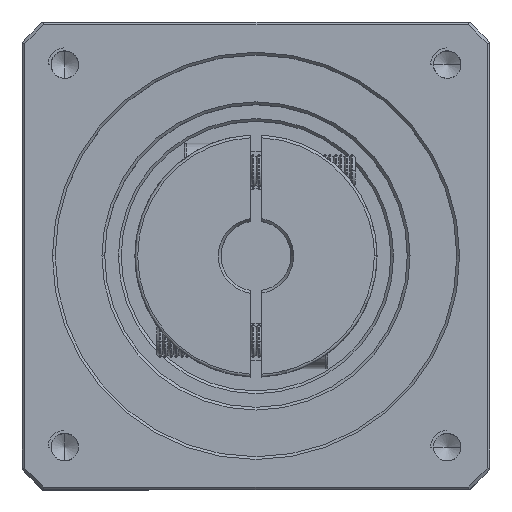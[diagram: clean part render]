
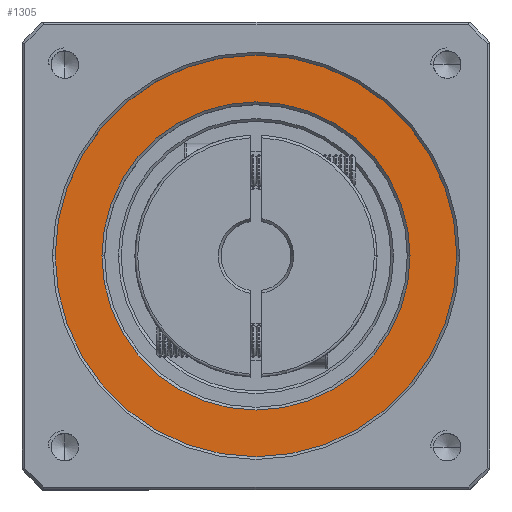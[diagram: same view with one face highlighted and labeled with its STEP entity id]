
A CAD part, top view. The second image highlights one B-rep face of the part: STEP entity #1305.
In plain terms, the highlighted planar face has unit normal (0, 0, 1).
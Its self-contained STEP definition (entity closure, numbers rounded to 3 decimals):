
#1305 = ADVANCED_FACE ( 'NONE', ( #100700, #77676 ), #41899, .T. ) ;
#5533 = DIRECTION ( 'NONE',  ( 0., 0., -1. ) ) ;
#11532 = AXIS2_PLACEMENT_3D ( 'NONE', #64466, #5533, #74383 ) ;
#14379 = EDGE_CURVE ( 'NONE', #72484, #76247, #106907, .T. ) ;
#14905 = AXIS2_PLACEMENT_3D ( 'NONE', #41452, #110237, #51374 ) ;
#15814 = EDGE_LOOP ( 'NONE', ( #63364, #85802 ) ) ;
#17843 = EDGE_LOOP ( 'NONE', ( #114533, #67740 ) ) ;
#19266 = EDGE_CURVE ( 'NONE', #76247, #72484, #41678, .T. ) ;
#20450 = CARTESIAN_POINT ( 'NONE',  ( 42.992, 11.253, 99.75 ) ) ;
#22152 = CARTESIAN_POINT ( 'NONE',  ( 79.492, 11.253, 99.75 ) ) ;
#30343 = DIRECTION ( 'NONE',  ( 1., 0., 0. ) ) ;
#30446 = CARTESIAN_POINT ( 'NONE',  ( 6.492, 11.253, 99.75 ) ) ;
#38432 = CIRCLE ( 'NONE', #11532, 28. ) ;
#41452 = CARTESIAN_POINT ( 'NONE',  ( 42.992, 11.253, 99.75 ) ) ;
#41678 = CIRCLE ( 'NONE', #60761, 36.5 ) ;
#41899 = PLANE ( 'NONE',  #74670 ) ;
#42201 = VERTEX_POINT ( 'NONE', #78904 ) ;
#50611 = DIRECTION ( 'NONE',  ( 0., 0., 1. ) ) ;
#51374 = DIRECTION ( 'NONE',  ( 1., 0., 0. ) ) ;
#53074 = DIRECTION ( 'NONE',  ( 0., 0., 1. ) ) ;
#60761 = AXIS2_PLACEMENT_3D ( 'NONE', #109500, #50611, #119400 ) ;
#63364 = ORIENTED_EDGE ( 'NONE', *, *, #88529, .T. ) ;
#64144 = AXIS2_PLACEMENT_3D ( 'NONE', #20450, #89213, #30343 ) ;
#64466 = CARTESIAN_POINT ( 'NONE',  ( 42.992, 11.253, 99.75 ) ) ;
#67740 = ORIENTED_EDGE ( 'NONE', *, *, #19266, .T. ) ;
#71030 = EDGE_CURVE ( 'NONE', #42201, #102140, #94722, .T. ) ;
#72484 = VERTEX_POINT ( 'NONE', #22152 ) ;
#74383 = DIRECTION ( 'NONE',  ( 1., 0., 0. ) ) ;
#74670 = AXIS2_PLACEMENT_3D ( 'NONE', #111952, #53074, #121885 ) ;
#76247 = VERTEX_POINT ( 'NONE', #30446 ) ;
#77676 = FACE_BOUND ( 'NONE', #15814, .T. ) ;
#78904 = CARTESIAN_POINT ( 'NONE',  ( 14.992, 11.253, 99.75 ) ) ;
#79006 = CARTESIAN_POINT ( 'NONE',  ( 70.992, 11.253, 99.75 ) ) ;
#85802 = ORIENTED_EDGE ( 'NONE', *, *, #71030, .T. ) ;
#88529 = EDGE_CURVE ( 'NONE', #102140, #42201, #38432, .T. ) ;
#89213 = DIRECTION ( 'NONE',  ( 0., 0., 1. ) ) ;
#94722 = CIRCLE ( 'NONE', #14905, 28. ) ;
#100700 = FACE_OUTER_BOUND ( 'NONE', #17843, .T. ) ;
#102140 = VERTEX_POINT ( 'NONE', #79006 ) ;
#106907 = CIRCLE ( 'NONE', #64144, 36.5 ) ;
#109500 = CARTESIAN_POINT ( 'NONE',  ( 42.992, 11.253, 99.75 ) ) ;
#110237 = DIRECTION ( 'NONE',  ( 0., 0., -1. ) ) ;
#111952 = CARTESIAN_POINT ( 'NONE',  ( 42.992, 11.253, 99.75 ) ) ;
#114533 = ORIENTED_EDGE ( 'NONE', *, *, #14379, .T. ) ;
#119400 = DIRECTION ( 'NONE',  ( 1., 0., 0. ) ) ;
#121885 = DIRECTION ( 'NONE',  ( 1., 0., 0. ) ) ;
